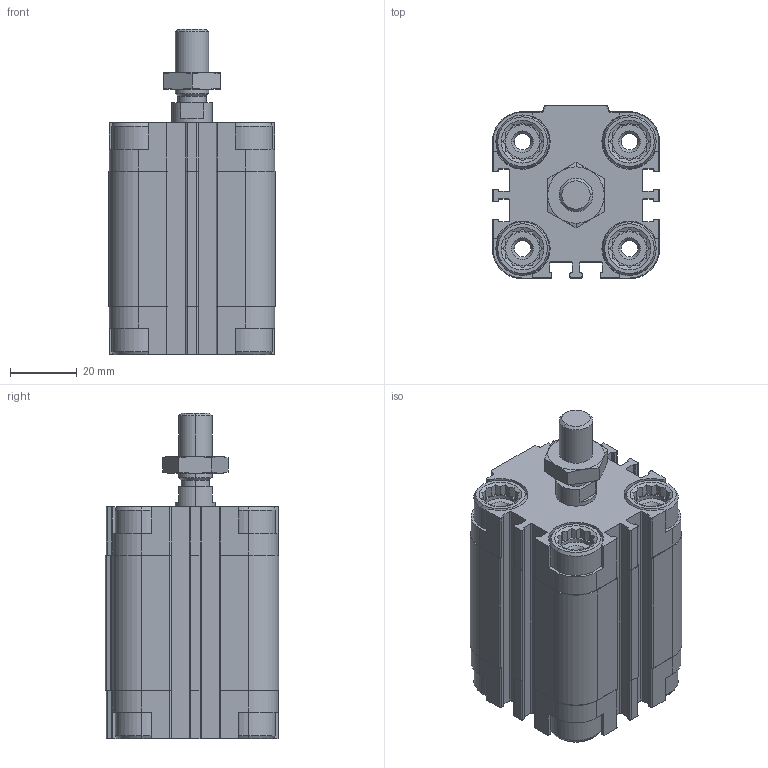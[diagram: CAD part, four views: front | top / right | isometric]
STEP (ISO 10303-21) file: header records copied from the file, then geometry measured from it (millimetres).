
FILE_DESCRIPTION (( 'STEP AP203' ), '1' );
FILE_NAME ('CDVU32-25.STEP', '2020-03-19T11:33:13', ( '' ), ( '' ), 'SwSTEP 2.0', 'SolidWorks 2019', '' );
FILE_SCHEMA (( 'CONFIG_CONTROL_DESIGN' ));
Length unit declared in the file: millimetre
Products named in the file (1): CDVU32-25
Bounding box: 50 x 52 x 97.5 mm (x, y, z)
Volume: 127655.2 mm3; surface area: 44194 mm2
Topology: 3 solids, 3 shells, 727 faces, 1932 edges, 1246 vertices
Faces by surface type: plane 425, cylinder 232, cone 70
Entity records: 22975 total; most frequent: CARTESIAN_POINT 4762, ORIENTED_EDGE 3856, DIRECTION 3712, EDGE_CURVE 1928, AXIS2_PLACEMENT_3D 1260, VERTEX_POINT 1246, VECTOR 1192, LINE 1192
